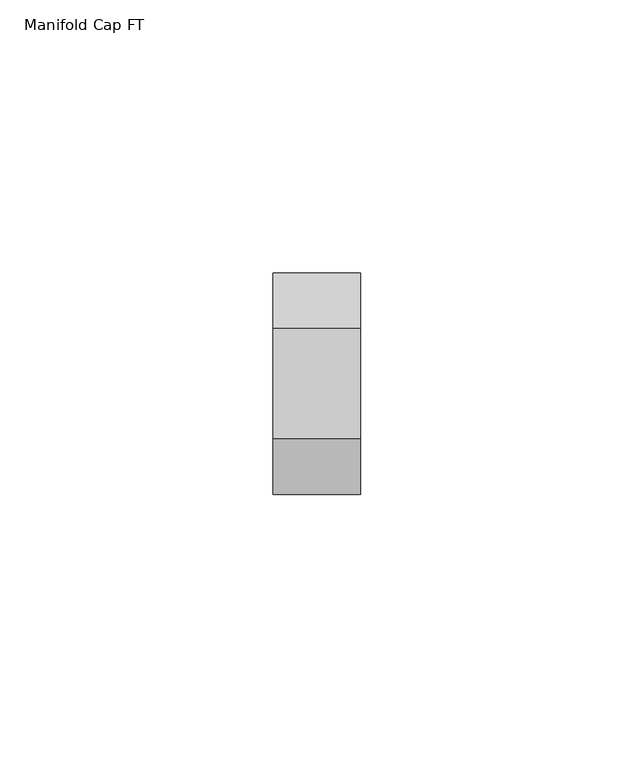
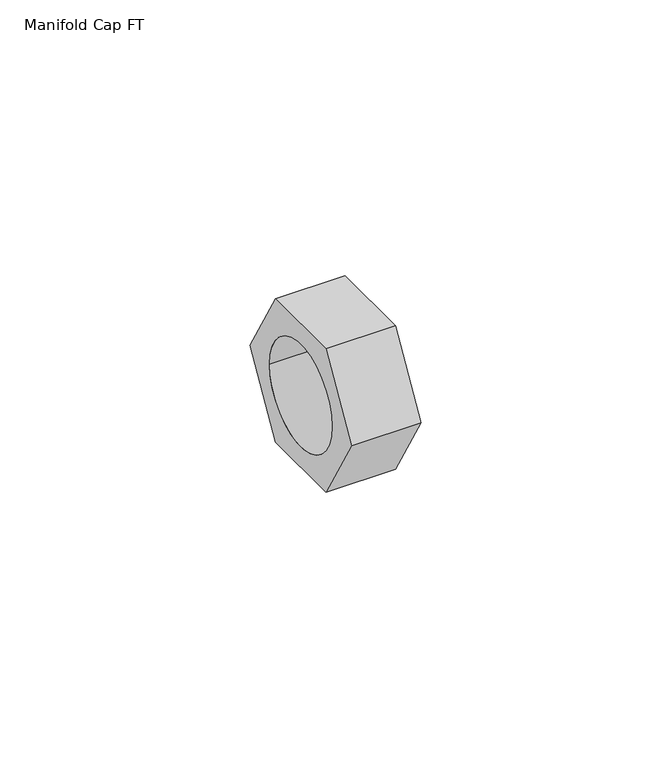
"""IFC4 building model written with IfcOpenShell, lengths in millimetres: pipe fitting geometry."""

from ifc_helpers import new_model, si_unit, frame, origin, place, context, project, spatial, polyline, circle_curve, source, transform, mapped, element, save
from ifc_brep_helpers import plane_surface, revolved_surface, advanced_brep


def manifold_cap_ft_2143a354(model_context):
    return source(origin(), model_context, "Body", "AdvancedBrep", [
        advanced_brep(
        [(0.0, -20.2072594, 0.0), (0.0, -10.1036297, 17.5), (0.0, 10.1036297, 17.5), (0.0, 20.2072594, 0.0), (0.0, 10.1036297, -17.5), (0.0, -10.1036297, -17.5), (0.0, -12.5, 0.0), (0.0, 12.5, 0.0), (16.0, -20.2072594, 0.0), (16.0, -10.1036297, -17.5), (16.0, 10.1036297, -17.5), (16.0, 20.2072594, 0.0), (16.0, 10.1036297, 17.5), (16.0, -10.1036297, 17.5), (14.0, 12.5, 0.0), (14.0, -12.5, 0.0)],
        [
            (0, 1),
            (1, 2),
            (2, 3),
            (3, 4),
            (4, 5),
            (5, 0),
            (6, 7, circle_curve(frame((0.0, 0.0, 0.0), z_axis=(1.0, 0.0, 0.0), x_axis=(0.0, -1.0, 0.0)), 12.5)),
            (7, 6, circle_curve(frame((0.0, 0.0, 0.0), z_axis=(1.0, 0.0, 0.0), x_axis=(0.0, -1.0, 0.0)), 12.5)),
            (8, 9),
            (9, 10),
            (10, 11),
            (11, 12),
            (12, 13),
            (13, 8),
            (0, 8),
            (13, 1),
            (12, 2),
            (11, 3),
            (10, 4),
            (9, 5),
            (14, 15, circle_curve(frame((14.0, 0.0, 0.0), z_axis=(-1.0, 0.0, 0.0), x_axis=(0.0, -1.0, 0.0)), 12.5)),
            (15, 14, circle_curve(frame((14.0, 0.0, 0.0), z_axis=(-1.0, 0.0, 0.0), x_axis=(0.0, -1.0, 0.0)), 12.5)),
            (14, 7),
            (6, 15),
        ],
        [
            plane_surface(frame((0.0, 0.0, 0.0), z_axis=(-1.0, 0.0, 0.0), x_axis=(0.0, 0.0, 1.0))),
            plane_surface(frame((16.0, 0.0, 0.0), z_axis=(1.0, 0.0, 0.0), x_axis=(0.0, 0.0, 1.0))),
            plane_surface(frame((0.0, -20.2072594, 0.0), z_axis=(0.0, -0.8660254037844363, 0.5000000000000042), x_axis=(1.0, 0.0, 0.0))),
            plane_surface(frame((0.0, -10.1036297, 17.5), z_axis=(0.0, 0.0, 1.0), x_axis=(1.0, 0.0, 0.0))),
            plane_surface(frame((0.0, 10.1036297, 17.5), z_axis=(0.0, 0.866025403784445, 0.4999999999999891), x_axis=(1.0, 0.0, 0.0))),
            plane_surface(frame((0.0, 20.2072594, 0.0), z_axis=(0.0, 0.866025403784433, -0.5000000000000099), x_axis=(1.0, 0.0, 0.0))),
            plane_surface(frame((0.0, 10.1036297, -17.5), z_axis=(0.0, 0.0, -1.0), x_axis=(1.0, 0.0, 0.0))),
            plane_surface(frame((0.0, -10.1036297, -17.5), z_axis=(0.0, -0.8660254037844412, -0.49999999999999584), x_axis=(1.0, 0.0, 0.0))),
            plane_surface(frame((14.0, -12.5, 0.0), z_axis=(-1.0, 0.0, 0.0), x_axis=(0.0, 0.0, -1.0))),
            revolved_surface(polyline([(0.0, -12.5, 0.0), (14.0, -12.5, 0.0)]), (14.0, 0.0, 0.0), (-1.0, 0.0, 0.0)),
        ],
        [
            (0, [[1, 2, 3, 4, 5, 6], [7, 8]]),
            (1, [[9, 10, 11, 12, 13, 14]]),
            (2, [[-1, 15, -14, 16]]),
            (3, [[-2, -16, -13, 17]]),
            (4, [[-3, -17, -12, 18]]),
            (5, [[-4, -18, -11, 19]]),
            (6, [[-5, -19, -10, 20]]),
            (7, [[-6, -20, -9, -15]]),
            (8, [[21, 22]]),
            (9, [[-21, 23, -7, 24]]),
            (9, [[-22, -24, -8, -23]]),
        ],
    ),
    ])


if __name__ == "__main__":
    model = new_model("IFC4")
    model_context = context("Model", 3, world=origin())
    ifc_project = project(units=[si_unit("LENGTHUNIT", "METRE", prefix="MILLI")], contexts=[model_context])
    site = spatial("IfcSite", under=ifc_project)
    building = spatial("IfcBuilding", under=site)
    placement = place(None, origin())
    manifold_cap_ft_shape = manifold_cap_ft_2143a354(model_context)
    element("IfcPipeFitting", 1, ObjectType="Manifold Cap FT : Superpipe Manifold Cap With Seal- 1\" FT", at=placement, inside=building, context=model_context, shape_type="MappedRepresentation", body=[
        mapped(manifold_cap_ft_shape, transform((0.0, 0.0, 0.0), x_axis=(1.0, 0.0, 0.0), y_axis=(0.0, 1.0, 0.0), z_axis=(0.0, 0.0, 1.0))),
    ])
    save(model, "model.ifc")
